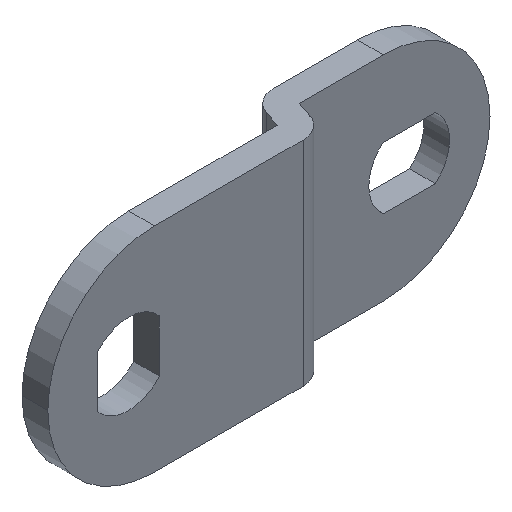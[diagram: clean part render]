
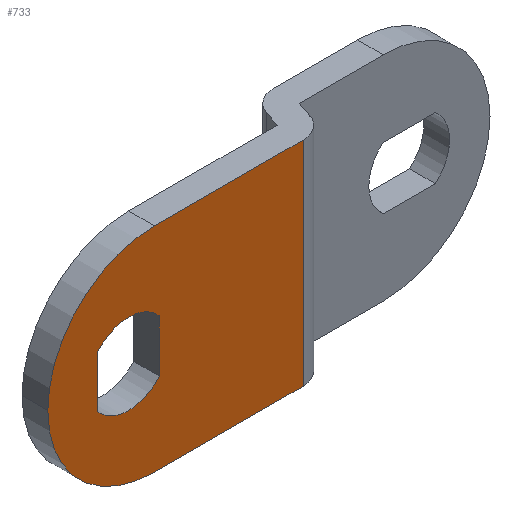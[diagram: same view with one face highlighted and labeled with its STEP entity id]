
A CAD part, isometric view. The second image highlights one B-rep face of the part: STEP entity #733.
In plain terms, the highlighted planar face has unit normal (0, -1, 0).
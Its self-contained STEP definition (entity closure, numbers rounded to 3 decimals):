
#8 = VERTEX_POINT ( 'NONE', #169 ) ;
#19 = EDGE_CURVE ( 'NONE', #231, #8, #254, .T. ) ;
#28 = EDGE_CURVE ( 'NONE', #782, #79, #310, .T. ) ;
#33 = ORIENTED_EDGE ( 'NONE', *, *, #28, .T. ) ;
#44 = ORIENTED_EDGE ( 'NONE', *, *, #59, .T. ) ;
#55 = ORIENTED_EDGE ( 'NONE', *, *, #19, .T. ) ;
#59 = EDGE_CURVE ( 'NONE', #79, #821, #508, .T. ) ;
#64 = EDGE_CURVE ( 'NONE', #741, #807, #531, .T. ) ;
#79 = VERTEX_POINT ( 'NONE', #583 ) ;
#87 = ORIENTED_EDGE ( 'NONE', *, *, #818, .T. ) ;
#119 = ORIENTED_EDGE ( 'NONE', *, *, #413, .T. ) ;
#131 = CARTESIAN_POINT ( 'NONE',  ( 4.45, 0., -7.177 ) ) ;
#141 = CARTESIAN_POINT ( 'NONE',  ( 9.5, 0., 0. ) ) ;
#162 = ORIENTED_EDGE ( 'NONE', *, *, #815, .T. ) ;
#169 = CARTESIAN_POINT ( 'NONE',  ( 0., 0., -9.5 ) ) ;
#222 = CIRCLE ( 'NONE', #223, 9.5 ) ;
#223 = AXIS2_PLACEMENT_3D ( 'NONE', #224, #225, #226 ) ;
#224 = CARTESIAN_POINT ( 'NONE',  ( 9.5, 0., -9.5 ) ) ;
#225 = DIRECTION ( 'NONE',  ( 0., -1., 0. ) ) ;
#226 = DIRECTION ( 'NONE',  ( 0., 0., -1. ) ) ;
#227 = CARTESIAN_POINT ( 'NONE',  ( 4.45, 0., -11.823 ) ) ;
#231 = VERTEX_POINT ( 'NONE', #141 ) ;
#238 = LINE ( 'NONE', #239, #240 ) ;
#239 = CARTESIAN_POINT ( 'NONE',  ( 0., 0., 0. ) ) ;
#240 = VECTOR ( 'NONE', #241, 1000. ) ;
#241 = DIRECTION ( 'NONE',  ( 1., 0., 0. ) ) ;
#244 = CIRCLE ( 'NONE', #245, 3.6 ) ;
#245 = AXIS2_PLACEMENT_3D ( 'NONE', #246, #247, #248 ) ;
#246 = CARTESIAN_POINT ( 'NONE',  ( 7.2, 0., -9.5 ) ) ;
#247 = DIRECTION ( 'NONE',  ( 0., 1., 0. ) ) ;
#248 = DIRECTION ( 'NONE',  ( -1., 0., 0. ) ) ;
#254 = CIRCLE ( 'NONE', #255, 9.5 ) ;
#255 = AXIS2_PLACEMENT_3D ( 'NONE', #256, #257, #258 ) ;
#256 = CARTESIAN_POINT ( 'NONE',  ( 9.5, 0., -9.5 ) ) ;
#257 = DIRECTION ( 'NONE',  ( 0., -1., 0. ) ) ;
#258 = DIRECTION ( 'NONE',  ( 0., 0., -1. ) ) ;
#293 = LINE ( 'NONE', #294, #295 ) ;
#294 = CARTESIAN_POINT ( 'NONE',  ( 9.95, 0., -11.823 ) ) ;
#295 = VECTOR ( 'NONE', #296, 1000. ) ;
#296 = DIRECTION ( 'NONE',  ( 0., 0., -1. ) ) ;
#310 = LINE ( 'NONE', #311, #312 ) ;
#311 = CARTESIAN_POINT ( 'NONE',  ( 0., 0., -19. ) ) ;
#312 = VECTOR ( 'NONE', #313, 1000. ) ;
#313 = DIRECTION ( 'NONE',  ( 1., 0., 0. ) ) ;
#317 = LINE ( 'NONE', #318, #319 ) ;
#318 = CARTESIAN_POINT ( 'NONE',  ( 4.45, 0., -11.823 ) ) ;
#319 = VECTOR ( 'NONE', #322, 1000. ) ;
#322 = DIRECTION ( 'NONE',  ( 0., 0., 1. ) ) ;
#341 = CARTESIAN_POINT ( 'NONE',  ( 9.5, 0., -19. ) ) ;
#371 = CARTESIAN_POINT ( 'NONE',  ( 22.742, 0., 0. ) ) ;
#413 = EDGE_CURVE ( 'NONE', #8, #782, #222, .T. ) ;
#426 = FACE_BOUND ( 'NONE', #535, .T. ) ;
#427 = FACE_OUTER_BOUND ( 'NONE', #730, .T. ) ;
#428 = PLANE ( 'NONE',  #429 ) ;
#429 = AXIS2_PLACEMENT_3D ( 'NONE', #430, #431, #432 ) ;
#430 = CARTESIAN_POINT ( 'NONE',  ( 0., 0., -19. ) ) ;
#431 = DIRECTION ( 'NONE',  ( 0., -1., 0. ) ) ;
#432 = DIRECTION ( 'NONE',  ( 0., 0., -1. ) ) ;
#449 = EDGE_CURVE ( 'NONE', #231, #821, #238, .T. ) ;
#458 = CARTESIAN_POINT ( 'NONE',  ( 9.95, 0., -7.177 ) ) ;
#463 = CARTESIAN_POINT ( 'NONE',  ( 9.95, 0., -11.823 ) ) ;
#500 = EDGE_CURVE ( 'NONE', #797, #740, #244, .T. ) ;
#508 = LINE ( 'NONE', #509, #510 ) ;
#509 = CARTESIAN_POINT ( 'NONE',  ( 22.742, 0., -19. ) ) ;
#510 = VECTOR ( 'NONE', #511, 1000. ) ;
#511 = DIRECTION ( 'NONE',  ( 0., 0., 1. ) ) ;
#531 = CIRCLE ( 'NONE', #532, 3.6 ) ;
#532 = AXIS2_PLACEMENT_3D ( 'NONE', #533, #534, #537 ) ;
#533 = CARTESIAN_POINT ( 'NONE',  ( 7.2, 0., -9.5 ) ) ;
#534 = DIRECTION ( 'NONE',  ( 0., 1., 0. ) ) ;
#535 = EDGE_LOOP ( 'NONE', ( #87, #751, #162, #799 ) ) ;
#537 = DIRECTION ( 'NONE',  ( -1., 0., 0. ) ) ;
#583 = CARTESIAN_POINT ( 'NONE',  ( 22.742, 0., -19. ) ) ;
#730 = EDGE_LOOP ( 'NONE', ( #33, #44, #736, #55, #119 ) ) ;
#733 = ADVANCED_FACE ( 'NONE', ( #426, #427 ), #428, .T. ) ;
#736 = ORIENTED_EDGE ( 'NONE', *, *, #449, .F. ) ;
#740 = VERTEX_POINT ( 'NONE', #458 ) ;
#741 = VERTEX_POINT ( 'NONE', #463 ) ;
#751 = ORIENTED_EDGE ( 'NONE', *, *, #500, .T. ) ;
#782 = VERTEX_POINT ( 'NONE', #341 ) ;
#797 = VERTEX_POINT ( 'NONE', #131 ) ;
#799 = ORIENTED_EDGE ( 'NONE', *, *, #64, .T. ) ;
#807 = VERTEX_POINT ( 'NONE', #227 ) ;
#815 = EDGE_CURVE ( 'NONE', #740, #741, #293, .T. ) ;
#818 = EDGE_CURVE ( 'NONE', #807, #797, #317, .T. ) ;
#821 = VERTEX_POINT ( 'NONE', #371 ) ;
